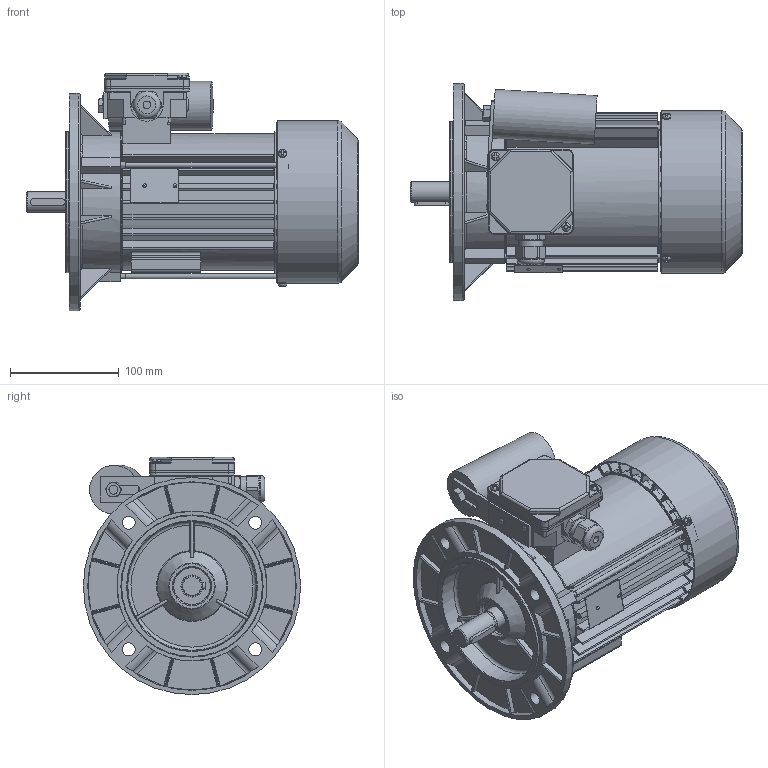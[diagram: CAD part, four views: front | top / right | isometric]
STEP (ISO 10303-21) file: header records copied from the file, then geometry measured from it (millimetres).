
FILE_DESCRIPTION(/* description */ ('Unknown'),/* implementation_level */ '2;1');
FILE_NAME(/* name */ '3SSIEK80-4B',/* time_stamp */ '2024-07-02T10:55:05+02:00',/* author */ ('Unknown'),/* organization */ ('Unknown'),/* preprocessor_version */ 'ST-DEVELOPER v16.7',/* originating_system */ 'Solid Edge',/* authorisation */ 'Unknown');
FILE_SCHEMA (('AUTOMOTIVE_DESIGN {1 0 10303 214 3 1 1}'));
Products named in the file (1): Czêœæ3
Bounding box: 305.79 x 200 x 218.5 mm (x, y, z)
Volume: 1172594 mm3; surface area: 591315.6 mm2
Topology: 4 solids, 4 shells, 2325 faces, 6551 edges, 4251 vertices
Faces by surface type: plane 1176, cylinder 783, bspline 132, torus 108, cone 106, sphere 20
Full cylindrical faces by diameter (mm): 2 x2, 2.4 x2, 3 x2, 3.7 x8, 4 x5, 4.3 x2, 4.5 x3, 4.6 x3, 4.8 x2, 5 x5, 5.5 x3, 6 x2, 6.5 x1, 7 x1, 8 x10, 12 x4, 18.598 x1, 18.998 x1, 19.298 x1, 19.498 x1, 19.898 x1, 19.948 x1, 19.998 x2, 20.4 x2, 22.3 x1, 25 x1, 25.497 x1, 25.647 x1, 25.997 x3, 26.047 x1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
Entity records: 91959 total; most frequent: CARTESIAN_POINT 19188, ORIENTED_EDGE 12306, DIRECTION 11631, EDGE_CURVE 6153, AXIS2_PLACEMENT_3D 4223, VERTEX_POINT 4118, LINE 3185, VECTOR 3185
